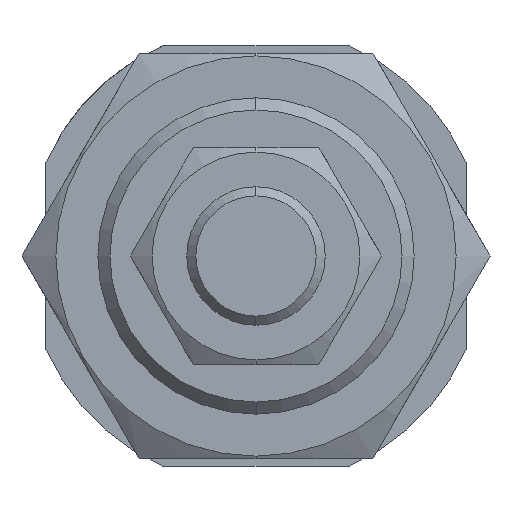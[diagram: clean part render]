
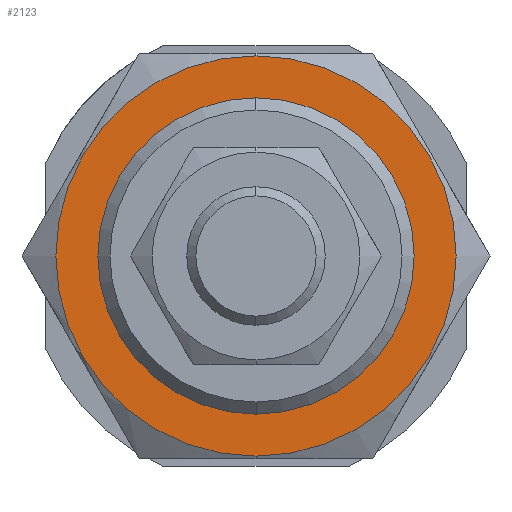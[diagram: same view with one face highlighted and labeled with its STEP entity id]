
A CAD part, left-side view. The second image highlights one B-rep face of the part: STEP entity #2123.
In plain terms, the highlighted planar face has unit normal (-1, 0, 0).
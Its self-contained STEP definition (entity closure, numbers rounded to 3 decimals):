
#38 = DIRECTION ( 'NONE',  ( 0., 1., 0. ) ) ;
#77 = DIRECTION ( 'NONE',  ( 0., 0., -1. ) ) ;
#296 = CIRCLE ( 'NONE', #4836, 20.25 ) ;
#442 = CARTESIAN_POINT ( 'NONE',  ( -13., 0., 16. ) ) ;
#456 = VERTEX_POINT ( 'NONE', #1366 ) ;
#635 = CARTESIAN_POINT ( 'NONE',  ( -13., 0., 20.25 ) ) ;
#708 = VERTEX_POINT ( 'NONE', #442 ) ;
#773 = ORIENTED_EDGE ( 'NONE', *, *, #807, .F. ) ;
#807 = EDGE_CURVE ( 'NONE', #5079, #3384, #296, .T. ) ;
#836 = CARTESIAN_POINT ( 'NONE',  ( -13., 0., -20.25 ) ) ;
#870 = FACE_BOUND ( 'NONE', #3983, .T. ) ;
#892 = EDGE_LOOP ( 'NONE', ( #773, #1493 ) ) ;
#913 = EDGE_CURVE ( 'NONE', #456, #708, #3504, .T. ) ;
#1047 = AXIS2_PLACEMENT_3D ( 'NONE', #4611, #4698, #2472 ) ;
#1072 = AXIS2_PLACEMENT_3D ( 'NONE', #3302, #4654, #1923 ) ;
#1351 = CIRCLE ( 'NONE', #1436, 16. ) ;
#1366 = CARTESIAN_POINT ( 'NONE',  ( -13., 0., -16. ) ) ;
#1436 = AXIS2_PLACEMENT_3D ( 'NONE', #3272, #5034, #2413 ) ;
#1493 = ORIENTED_EDGE ( 'NONE', *, *, #4444, .F. ) ;
#1923 = DIRECTION ( 'NONE',  ( 0., 0., -1. ) ) ;
#1931 = DIRECTION ( 'NONE',  ( 1., 0., 0. ) ) ;
#2123 = ADVANCED_FACE ( 'NONE', ( #4067, #870 ), #2179, .F. ) ;
#2179 = PLANE ( 'NONE',  #3575 ) ;
#2413 = DIRECTION ( 'NONE',  ( 0., 0., -1. ) ) ;
#2472 = DIRECTION ( 'NONE',  ( 0., 0., -1. ) ) ;
#2751 = CARTESIAN_POINT ( 'NONE',  ( -13., 0., 0. ) ) ;
#3253 = ORIENTED_EDGE ( 'NONE', *, *, #3725, .T. ) ;
#3272 = CARTESIAN_POINT ( 'NONE',  ( -13., 0., 0. ) ) ;
#3302 = CARTESIAN_POINT ( 'NONE',  ( -13., 0., 0. ) ) ;
#3375 = CIRCLE ( 'NONE', #1047, 20.25 ) ;
#3384 = VERTEX_POINT ( 'NONE', #635 ) ;
#3497 = ORIENTED_EDGE ( 'NONE', *, *, #913, .T. ) ;
#3504 = CIRCLE ( 'NONE', #1072, 16. ) ;
#3575 = AXIS2_PLACEMENT_3D ( 'NONE', #4871, #4840, #38 ) ;
#3725 = EDGE_CURVE ( 'NONE', #708, #456, #1351, .T. ) ;
#3983 = EDGE_LOOP ( 'NONE', ( #3253, #3497 ) ) ;
#4067 = FACE_OUTER_BOUND ( 'NONE', #892, .T. ) ;
#4444 = EDGE_CURVE ( 'NONE', #3384, #5079, #3375, .T. ) ;
#4611 = CARTESIAN_POINT ( 'NONE',  ( -13., 0., 0. ) ) ;
#4654 = DIRECTION ( 'NONE',  ( 1., 0., 0. ) ) ;
#4698 = DIRECTION ( 'NONE',  ( 1., 0., 0. ) ) ;
#4836 = AXIS2_PLACEMENT_3D ( 'NONE', #2751, #1931, #77 ) ;
#4840 = DIRECTION ( 'NONE',  ( 1., 0., 0. ) ) ;
#4871 = CARTESIAN_POINT ( 'NONE',  ( -13., 0., 0. ) ) ;
#5034 = DIRECTION ( 'NONE',  ( 1., 0., 0. ) ) ;
#5079 = VERTEX_POINT ( 'NONE', #836 ) ;
